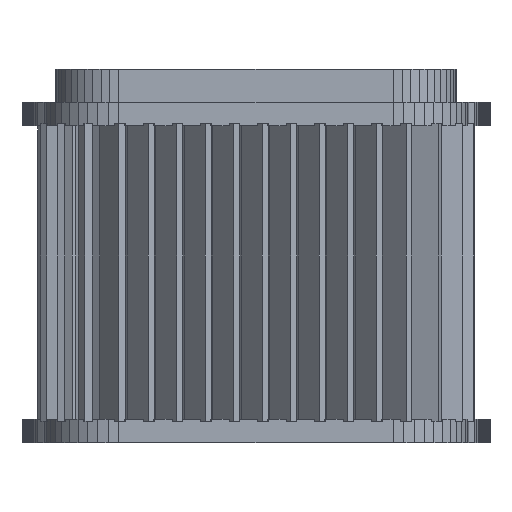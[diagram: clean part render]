
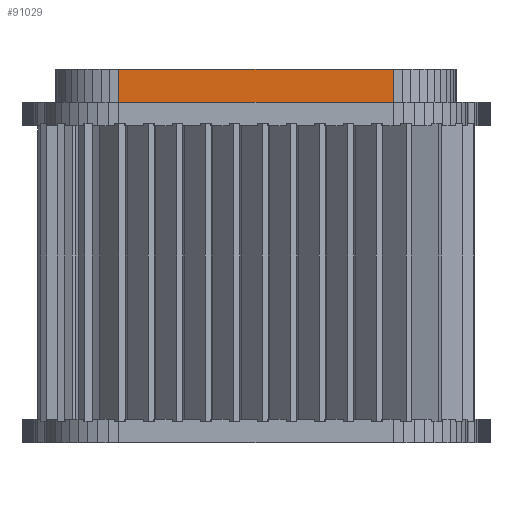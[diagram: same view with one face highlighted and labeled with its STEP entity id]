
A CAD part, left-side view. The second image highlights one B-rep face of the part: STEP entity #91029.
In plain terms, the highlighted planar face has unit normal (-1, 0, 0).
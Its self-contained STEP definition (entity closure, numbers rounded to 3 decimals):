
#85719 = PLANE('',#85720);
#85720 = AXIS2_PLACEMENT_3D('',#85721,#85722,#85723);
#85721 = CARTESIAN_POINT('',(0.,0.,
    79.));
#85722 = DIRECTION('',(0.,0.,1.));
#85723 = DIRECTION('',(1.,0.,-0.));
#85773 = PLANE('',#85774);
#85774 = AXIS2_PLACEMENT_3D('',#85775,#85776,#85777);
#85775 = CARTESIAN_POINT('',(0.,0.,
    72.));
#85776 = DIRECTION('',(0.,0.,1.));
#85777 = DIRECTION('',(1.,0.,-0.));
#86141 = VERTEX_POINT('',#86142);
#86142 = CARTESIAN_POINT('',(-63.4,29.,79.));
#86156 = PLANE('',#86157);
#86157 = AXIS2_PLACEMENT_3D('',#86158,#86159,#86160);
#86158 = CARTESIAN_POINT('',(-63.264,30.907,72.));
#86159 = DIRECTION('',(0.997,-0.071,0.));
#86160 = DIRECTION('',(-0.071,-0.997,0.));
#86168 = EDGE_CURVE('',#86169,#86141,#86171,.T.);
#86169 = VERTEX_POINT('',#86170);
#86170 = CARTESIAN_POINT('',(-63.4,-29.,79.));
#86171 = SURFACE_CURVE('',#86172,(#86176,#86183),.PCURVE_S1.);
#86172 = LINE('',#86173,#86174);
#86173 = CARTESIAN_POINT('',(-63.4,-29.,79.));
#86174 = VECTOR('',#86175,1.);
#86175 = DIRECTION('',(0.,1.,0.));
#86176 = PCURVE('',#85719,#86177);
#86177 = DEFINITIONAL_REPRESENTATION('',(#86178),#86182);
#86178 = LINE('',#86179,#86180);
#86179 = CARTESIAN_POINT('',(-63.4,-29.));
#86180 = VECTOR('',#86181,1.);
#86181 = DIRECTION('',(0.,1.));
#86182 = ( GEOMETRIC_REPRESENTATION_CONTEXT(2) 
PARAMETRIC_REPRESENTATION_CONTEXT() REPRESENTATION_CONTEXT('2D SPACE',''
  ) );
#86183 = PCURVE('',#86184,#86189);
#86184 = PLANE('',#86185);
#86185 = AXIS2_PLACEMENT_3D('',#86186,#86187,#86188);
#86186 = CARTESIAN_POINT('',(-63.4,29.,72.));
#86187 = DIRECTION('',(1.,0.,-0.));
#86188 = DIRECTION('',(0.,-1.,0.));
#86189 = DEFINITIONAL_REPRESENTATION('',(#86190),#86194);
#86190 = LINE('',#86191,#86192);
#86191 = CARTESIAN_POINT('',(58.,-7.));
#86192 = VECTOR('',#86193,1.);
#86193 = DIRECTION('',(-1.,0.));
#86194 = ( GEOMETRIC_REPRESENTATION_CONTEXT(2) 
PARAMETRIC_REPRESENTATION_CONTEXT() REPRESENTATION_CONTEXT('2D SPACE',''
  ) );
#86212 = PLANE('',#86213);
#86213 = AXIS2_PLACEMENT_3D('',#86214,#86215,#86216);
#86214 = CARTESIAN_POINT('',(-63.4,-29.,72.));
#86215 = DIRECTION('',(0.997,0.071,-0.));
#86216 = DIRECTION('',(0.071,-0.997,0.));
#88654 = VERTEX_POINT('',#88655);
#88655 = CARTESIAN_POINT('',(-63.4,29.,72.));
#88676 = EDGE_CURVE('',#88654,#88677,#88679,.T.);
#88677 = VERTEX_POINT('',#88678);
#88678 = CARTESIAN_POINT('',(-63.4,-29.,72.));
#88679 = SURFACE_CURVE('',#88680,(#88684,#88691),.PCURVE_S1.);
#88680 = LINE('',#88681,#88682);
#88681 = CARTESIAN_POINT('',(-63.4,29.,72.));
#88682 = VECTOR('',#88683,1.);
#88683 = DIRECTION('',(0.,-1.,0.));
#88684 = PCURVE('',#85773,#88685);
#88685 = DEFINITIONAL_REPRESENTATION('',(#88686),#88690);
#88686 = LINE('',#88687,#88688);
#88687 = CARTESIAN_POINT('',(-63.4,29.));
#88688 = VECTOR('',#88689,1.);
#88689 = DIRECTION('',(0.,-1.));
#88690 = ( GEOMETRIC_REPRESENTATION_CONTEXT(2) 
PARAMETRIC_REPRESENTATION_CONTEXT() REPRESENTATION_CONTEXT('2D SPACE',''
  ) );
#88691 = PCURVE('',#86184,#88692);
#88692 = DEFINITIONAL_REPRESENTATION('',(#88693),#88697);
#88693 = LINE('',#88694,#88695);
#88694 = CARTESIAN_POINT('',(0.,0.));
#88695 = VECTOR('',#88696,1.);
#88696 = DIRECTION('',(1.,0.));
#88697 = ( GEOMETRIC_REPRESENTATION_CONTEXT(2) 
PARAMETRIC_REPRESENTATION_CONTEXT() REPRESENTATION_CONTEXT('2D SPACE',''
  ) );
#90981 = EDGE_CURVE('',#88654,#86141,#90982,.T.);
#90982 = SURFACE_CURVE('',#90983,(#90987,#90994),.PCURVE_S1.);
#90983 = LINE('',#90984,#90985);
#90984 = CARTESIAN_POINT('',(-63.4,29.,72.));
#90985 = VECTOR('',#90986,1.);
#90986 = DIRECTION('',(0.,0.,1.));
#90987 = PCURVE('',#86156,#90988);
#90988 = DEFINITIONAL_REPRESENTATION('',(#90989),#90993);
#90989 = LINE('',#90990,#90991);
#90990 = CARTESIAN_POINT('',(1.912,0.));
#90991 = VECTOR('',#90992,1.);
#90992 = DIRECTION('',(0.,-1.));
#90993 = ( GEOMETRIC_REPRESENTATION_CONTEXT(2) 
PARAMETRIC_REPRESENTATION_CONTEXT() REPRESENTATION_CONTEXT('2D SPACE',''
  ) );
#90994 = PCURVE('',#86184,#90995);
#90995 = DEFINITIONAL_REPRESENTATION('',(#90996),#91000);
#90996 = LINE('',#90997,#90998);
#90997 = CARTESIAN_POINT('',(0.,0.));
#90998 = VECTOR('',#90999,1.);
#90999 = DIRECTION('',(0.,-1.));
#91000 = ( GEOMETRIC_REPRESENTATION_CONTEXT(2) 
PARAMETRIC_REPRESENTATION_CONTEXT() REPRESENTATION_CONTEXT('2D SPACE',''
  ) );
#91029 = ADVANCED_FACE('',(#91030),#86184,.F.);
#91030 = FACE_BOUND('',#91031,.F.);
#91031 = EDGE_LOOP('',(#91032,#91033,#91034,#91055));
#91032 = ORIENTED_EDGE('',*,*,#90981,.T.);
#91033 = ORIENTED_EDGE('',*,*,#86168,.F.);
#91034 = ORIENTED_EDGE('',*,*,#91035,.F.);
#91035 = EDGE_CURVE('',#88677,#86169,#91036,.T.);
#91036 = SURFACE_CURVE('',#91037,(#91041,#91048),.PCURVE_S1.);
#91037 = LINE('',#91038,#91039);
#91038 = CARTESIAN_POINT('',(-63.4,-29.,72.));
#91039 = VECTOR('',#91040,1.);
#91040 = DIRECTION('',(0.,0.,1.));
#91041 = PCURVE('',#86184,#91042);
#91042 = DEFINITIONAL_REPRESENTATION('',(#91043),#91047);
#91043 = LINE('',#91044,#91045);
#91044 = CARTESIAN_POINT('',(58.,0.));
#91045 = VECTOR('',#91046,1.);
#91046 = DIRECTION('',(0.,-1.));
#91047 = ( GEOMETRIC_REPRESENTATION_CONTEXT(2) 
PARAMETRIC_REPRESENTATION_CONTEXT() REPRESENTATION_CONTEXT('2D SPACE',''
  ) );
#91048 = PCURVE('',#86212,#91049);
#91049 = DEFINITIONAL_REPRESENTATION('',(#91050),#91054);
#91050 = LINE('',#91051,#91052);
#91051 = CARTESIAN_POINT('',(0.,0.));
#91052 = VECTOR('',#91053,1.);
#91053 = DIRECTION('',(0.,-1.));
#91054 = ( GEOMETRIC_REPRESENTATION_CONTEXT(2) 
PARAMETRIC_REPRESENTATION_CONTEXT() REPRESENTATION_CONTEXT('2D SPACE',''
  ) );
#91055 = ORIENTED_EDGE('',*,*,#88676,.F.);
